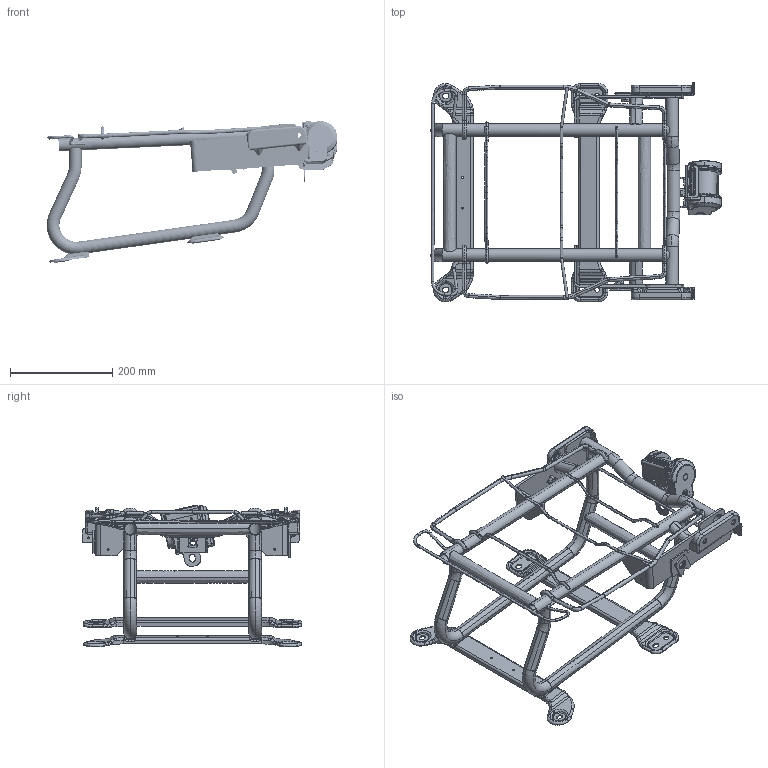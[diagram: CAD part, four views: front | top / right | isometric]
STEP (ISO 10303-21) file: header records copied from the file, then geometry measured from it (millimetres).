
FILE_DESCRIPTION(('CATIA V5 STEP Exchange'),'2;1');
FILE_NAME('E:\宋国明\项目\05-J6L\输出\J6L三点式安全带副驾.stp','2024-02-26T05:36:43+00:00',('none'),('none'),'CATIA Version 5 Release 20 GA (IN-10)','CATIA V5 STEP AP214','none');
FILE_SCHEMA(('AUTOMOTIVE_DESIGN { 1 0 10303 214 1 1 1 1 }'));
Length unit declared in the file: millimetre
Products named in the file (1): SHT0016043_AllCATPart
Bounding box: 569.57 x 430.64 x 277.9 mm (x, y, z)
Volume: 885492.6 mm3; surface area: 926530.5 mm2
Topology: 32 solids, 1340 shells, 3274 faces, 18013 edges, 16068 vertices
Faces by surface type: plane 1094, cylinder 1089, bspline 602, torus 242, revolution 162, cone 45, sphere 32, extrusion 8
Entity records: 236462 total; most frequent: CARTESIAN_POINT 115004, ORIENTED_EDGE 22777, EDGE_CURVE 17967, VERTEX_POINT 16068, DIRECTION 12185, B_SPLINE_CURVE_WITH_KNOTS 10088, VECTOR 5223, LINE 5215
